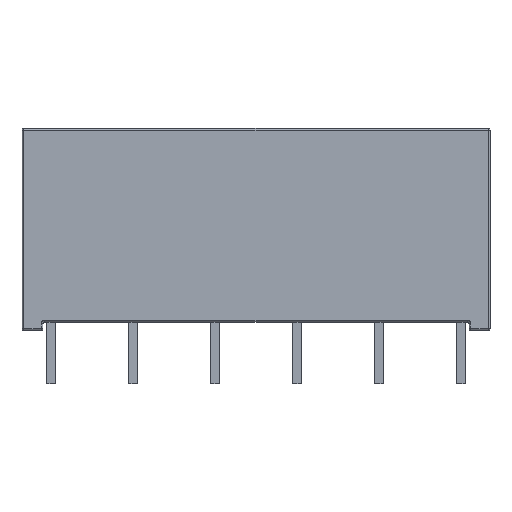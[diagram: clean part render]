
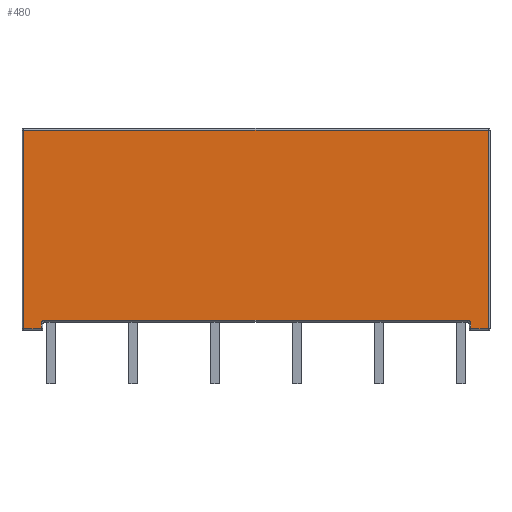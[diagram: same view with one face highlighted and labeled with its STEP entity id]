
A CAD part, top view. The second image highlights one B-rep face of the part: STEP entity #480.
In plain terms, the highlighted planar face has unit normal (0, 0, 1).
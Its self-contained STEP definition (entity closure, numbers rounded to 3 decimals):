
#251 = EDGE_CURVE ( 'NONE', #440, #435, #32413, .T. ) ;
#295 = ORIENTED_EDGE ( 'NONE', *, *, #297, .T. ) ;
#297 = EDGE_CURVE ( 'NONE', #435, #545, #32675, .T. ) ;
#396 = VERTEX_POINT ( 'NONE', #32939 ) ;
#398 = ORIENTED_EDGE ( 'NONE', *, *, #431, .T. ) ;
#402 = VERTEX_POINT ( 'NONE', #32930 ) ;
#430 = ORIENTED_EDGE ( 'NONE', *, *, #251, .T. ) ;
#431 = EDGE_CURVE ( 'NONE', #396, #440, #33101, .T. ) ;
#435 = VERTEX_POINT ( 'NONE', #33090 ) ;
#440 = VERTEX_POINT ( 'NONE', #33082 ) ;
#443 = EDGE_CURVE ( 'NONE', #402, #396, #33078, .T. ) ;
#445 = ORIENTED_EDGE ( 'NONE', *, *, #443, .T. ) ;
#448 = VERTEX_POINT ( 'NONE', #33064 ) ;
#449 = EDGE_CURVE ( 'NONE', #477, #448, #33060, .T. ) ;
#450 = EDGE_CURVE ( 'NONE', #448, #402, #33166, .T. ) ;
#453 = ORIENTED_EDGE ( 'NONE', *, *, #449, .T. ) ;
#455 = ORIENTED_EDGE ( 'NONE', *, *, #450, .T. ) ;
#477 = VERTEX_POINT ( 'NONE', #33193 ) ;
#478 = ORIENTED_EDGE ( 'NONE', *, *, #488, .F. ) ;
#480 = ADVANCED_FACE ( 'NONE', ( #33187 ), #33186, .F. ) ;
#481 = EDGE_CURVE ( 'NONE', #485, #487, #33283, .T. ) ;
#482 = ORIENTED_EDGE ( 'NONE', *, *, #484, .F. ) ;
#483 = EDGE_LOOP ( 'NONE', ( #482, #490, #478, #453, #455, #445, #398, #430, #295, #542 ) ) ;
#484 = EDGE_CURVE ( 'NONE', #485, #491, #33276, .T. ) ;
#485 = VERTEX_POINT ( 'NONE', #33269 ) ;
#487 = VERTEX_POINT ( 'NONE', #33268 ) ;
#488 = EDGE_CURVE ( 'NONE', #477, #487, #33263, .T. ) ;
#490 = ORIENTED_EDGE ( 'NONE', *, *, #481, .T. ) ;
#491 = VERTEX_POINT ( 'NONE', #33253 ) ;
#542 = ORIENTED_EDGE ( 'NONE', *, *, #544, .T. ) ;
#544 = EDGE_CURVE ( 'NONE', #545, #491, #33434, .T. ) ;
#545 = VERTEX_POINT ( 'NONE', #33427 ) ;
#32400 = DIRECTION ( 'NONE',  ( 0., -1., 0. ) ) ;
#32401 = VECTOR ( 'NONE', #32400, 1000. ) ;
#32403 = CARTESIAN_POINT ( 'NONE',  ( -14.4, 11.992, 3.11 ) ) ;
#32413 = LINE ( 'NONE', #32403, #32401 ) ;
#32672 = DIRECTION ( 'NONE',  ( 1., 0., 0. ) ) ;
#32673 = VECTOR ( 'NONE', #32672, 1000. ) ;
#32674 = CARTESIAN_POINT ( 'NONE',  ( -13.2, -0.408, 3.11 ) ) ;
#32675 = LINE ( 'NONE', #32674, #32673 ) ;
#32930 = CARTESIAN_POINT ( 'NONE',  ( 14.4, -0.408, 3.11 ) ) ;
#32939 = CARTESIAN_POINT ( 'NONE',  ( 14.4, 11.892, 3.11 ) ) ;
#33060 = LINE ( 'NONE', #33173, #33172 ) ;
#33064 = CARTESIAN_POINT ( 'NONE',  ( 13.3, -0.408, 3.11 ) ) ;
#33074 = DIRECTION ( 'NONE',  ( 0., 1., 0. ) ) ;
#33075 = VECTOR ( 'NONE', #33074, 1000. ) ;
#33076 = CARTESIAN_POINT ( 'NONE',  ( 14.4, 11.992, 3.11 ) ) ;
#33078 = LINE ( 'NONE', #33076, #33075 ) ;
#33082 = CARTESIAN_POINT ( 'NONE',  ( -14.4, 11.892, 3.11 ) ) ;
#33090 = CARTESIAN_POINT ( 'NONE',  ( -14.4, -0.408, 3.11 ) ) ;
#33098 = DIRECTION ( 'NONE',  ( -1., 0., 0. ) ) ;
#33099 = VECTOR ( 'NONE', #33098, 1000. ) ;
#33100 = CARTESIAN_POINT ( 'NONE',  ( -14.5, 11.892, 3.11 ) ) ;
#33101 = LINE ( 'NONE', #33100, #33099 ) ;
#33162 = DIRECTION ( 'NONE',  ( 1., 0., 0. ) ) ;
#33164 = VECTOR ( 'NONE', #33162, 1000. ) ;
#33165 = CARTESIAN_POINT ( 'NONE',  ( 14.5, -0.408, 3.11 ) ) ;
#33166 = LINE ( 'NONE', #33165, #33164 ) ;
#33170 = DIRECTION ( 'NONE',  ( 0., -1., 0. ) ) ;
#33172 = VECTOR ( 'NONE', #33170, 1000. ) ;
#33173 = CARTESIAN_POINT ( 'NONE',  ( 13.3, -0.508, 3.11 ) ) ;
#33178 = DIRECTION ( 'NONE',  ( -1., 0., 0. ) ) ;
#33180 = DIRECTION ( 'NONE',  ( 0., 0., -1. ) ) ;
#33181 = CARTESIAN_POINT ( 'NONE',  ( 14.5, 11.992, 3.11 ) ) ;
#33185 = AXIS2_PLACEMENT_3D ( 'NONE', #33181, #33180, #33178 ) ;
#33186 = PLANE ( 'NONE',  #33185 ) ;
#33187 = FACE_OUTER_BOUND ( 'NONE', #483, .T. ) ;
#33193 = CARTESIAN_POINT ( 'NONE',  ( 13.3, -0.1, 3.11 ) ) ;
#33253 = CARTESIAN_POINT ( 'NONE',  ( -13.3, -0.1, 3.11 ) ) ;
#33257 = DIRECTION ( 'NONE',  ( -1., 0., 0. ) ) ;
#33258 = DIRECTION ( 'NONE',  ( 0., 0., 1. ) ) ;
#33260 = CARTESIAN_POINT ( 'NONE',  ( 13.1, -0.1, 3.11 ) ) ;
#33261 = AXIS2_PLACEMENT_3D ( 'NONE', #33260, #33258, #33257 ) ;
#33263 = CIRCLE ( 'NONE', #33261, 0.2 ) ;
#33268 = CARTESIAN_POINT ( 'NONE',  ( 13.1, 0.1, 3.11 ) ) ;
#33269 = CARTESIAN_POINT ( 'NONE',  ( -13.1, 0.1, 3.11 ) ) ;
#33271 = DIRECTION ( 'NONE',  ( -1., 0., 0. ) ) ;
#33273 = DIRECTION ( 'NONE',  ( 0., 0., 1. ) ) ;
#33274 = CARTESIAN_POINT ( 'NONE',  ( -13.1, -0.1, 3.11 ) ) ;
#33275 = AXIS2_PLACEMENT_3D ( 'NONE', #33274, #33273, #33271 ) ;
#33276 = CIRCLE ( 'NONE', #33275, 0.2 ) ;
#33279 = DIRECTION ( 'NONE',  ( 1., 0., 0. ) ) ;
#33281 = VECTOR ( 'NONE', #33279, 1000. ) ;
#33282 = CARTESIAN_POINT ( 'NONE',  ( 14.5, 0.1, 3.11 ) ) ;
#33283 = LINE ( 'NONE', #33282, #33281 ) ;
#33427 = CARTESIAN_POINT ( 'NONE',  ( -13.3, -0.408, 3.11 ) ) ;
#33428 = DIRECTION ( 'NONE',  ( 0., 1., 0. ) ) ;
#33430 = VECTOR ( 'NONE', #33428, 1000. ) ;
#33432 = CARTESIAN_POINT ( 'NONE',  ( -13.3, 11.992, 3.11 ) ) ;
#33434 = LINE ( 'NONE', #33432, #33430 ) ;
